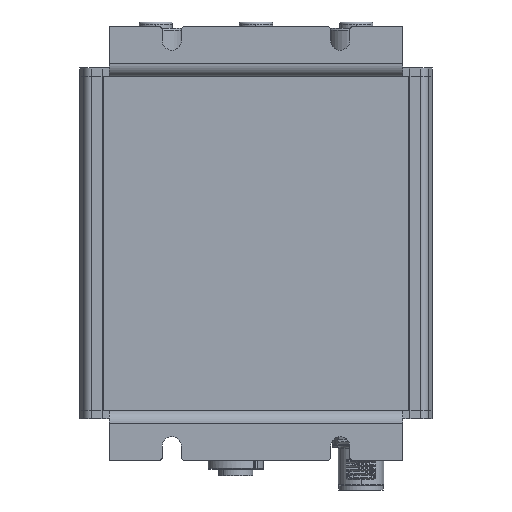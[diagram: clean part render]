
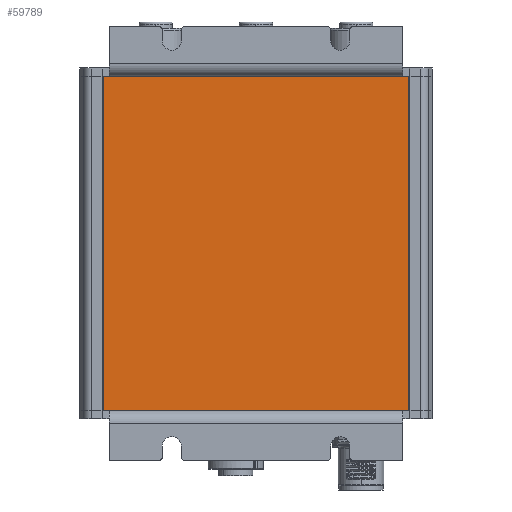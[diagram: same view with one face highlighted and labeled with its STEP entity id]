
A CAD part, front view. The second image highlights one B-rep face of the part: STEP entity #59789.
In plain terms, the highlighted planar face has unit normal (0, -1, 0).
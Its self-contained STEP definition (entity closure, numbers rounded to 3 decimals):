
#5455 = EDGE_CURVE ( 'NONE', #116817, #74946, #84729, .T. ) ;
#5843 = CARTESIAN_POINT ( 'NONE',  ( 53.959, -10.735, 80. ) ) ;
#6581 = CARTESIAN_POINT ( 'NONE',  ( 53.959, -10.735, 0. ) ) ;
#7797 = DIRECTION ( 'NONE',  ( 0., 0., 1. ) ) ;
#8075 = CARTESIAN_POINT ( 'NONE',  ( -18.941, -10.735, 0. ) ) ;
#8379 = FACE_OUTER_BOUND ( 'NONE', #85428, .T. ) ;
#17542 = PLANE ( 'NONE',  #59784 ) ;
#18617 = VECTOR ( 'NONE', #58546, 1000. ) ;
#23200 = VERTEX_POINT ( 'NONE', #5843 ) ;
#24094 = EDGE_CURVE ( 'NONE', #23200, #116817, #84186, .T. ) ;
#34102 = CARTESIAN_POINT ( 'NONE',  ( -18.941, -10.735, 0. ) ) ;
#36471 = EDGE_CURVE ( 'NONE', #74946, #60928, #105656, .T. ) ;
#41625 = VECTOR ( 'NONE', #45046, 1000. ) ;
#41979 = CARTESIAN_POINT ( 'NONE',  ( -18.941, -10.735, 80. ) ) ;
#44539 = VECTOR ( 'NONE', #85916, 1000. ) ;
#45046 = DIRECTION ( 'NONE',  ( -1., 0., 0. ) ) ;
#48869 = ORIENTED_EDGE ( 'NONE', *, *, #24094, .T. ) ;
#53003 = ORIENTED_EDGE ( 'NONE', *, *, #5455, .T. ) ;
#58546 = DIRECTION ( 'NONE',  ( 1., 0., 0. ) ) ;
#59782 = CARTESIAN_POINT ( 'NONE',  ( -18.941, -10.735, 0. ) ) ;
#59784 = AXIS2_PLACEMENT_3D ( 'NONE', #34102, #71475, #63486 ) ;
#59789 = ADVANCED_FACE ( 'NONE', ( #8379 ), #17542, .T. ) ;
#60928 = VERTEX_POINT ( 'NONE', #83161 ) ;
#61432 = ORIENTED_EDGE ( 'NONE', *, *, #88863, .T. ) ;
#63486 = DIRECTION ( 'NONE',  ( 0., 0., -1. ) ) ;
#66949 = CARTESIAN_POINT ( 'NONE',  ( -18.941, -10.735, 0. ) ) ;
#71475 = DIRECTION ( 'NONE',  ( 0., -1., 0. ) ) ;
#72689 = LINE ( 'NONE', #6581, #78481 ) ;
#74946 = VERTEX_POINT ( 'NONE', #8075 ) ;
#76167 = ORIENTED_EDGE ( 'NONE', *, *, #36471, .T. ) ;
#78481 = VECTOR ( 'NONE', #7797, 1000. ) ;
#83161 = CARTESIAN_POINT ( 'NONE',  ( 53.959, -10.735, 0. ) ) ;
#84186 = LINE ( 'NONE', #109922, #41625 ) ;
#84729 = LINE ( 'NONE', #66949, #44539 ) ;
#85428 = EDGE_LOOP ( 'NONE', ( #61432, #48869, #53003, #76167 ) ) ;
#85916 = DIRECTION ( 'NONE',  ( 0., 0., -1. ) ) ;
#88863 = EDGE_CURVE ( 'NONE', #60928, #23200, #72689, .T. ) ;
#105656 = LINE ( 'NONE', #59782, #18617 ) ;
#109922 = CARTESIAN_POINT ( 'NONE',  ( -18.941, -10.735, 80. ) ) ;
#116817 = VERTEX_POINT ( 'NONE', #41979 ) ;
